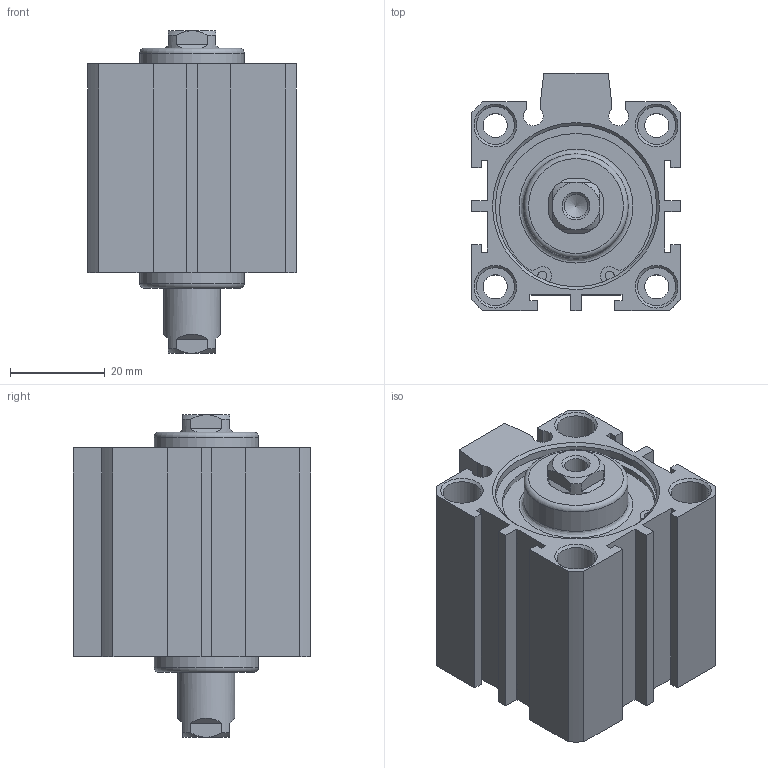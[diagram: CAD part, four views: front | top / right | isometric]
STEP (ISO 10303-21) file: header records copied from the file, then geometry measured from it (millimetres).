
FILE_DESCRIPTION((''),'2;1');
FILE_NAME('I:\3D電子目錄\氣缸\JDD\JDD-S\JDD32-S\JDD32x10-S.stp','2007-02-08T14:41:19',('662F206'),(''),'Autodesk Inventor 10','Autodesk Inventor 10','');
FILE_SCHEMA(('AUTOMOTIVE_DESIGN { 1 0 10303 214 1 1 1 1 }'));
Length unit declared in the file: millimetre
Products named in the file (3): JDD32-S; R 形環 35
Assembly tree (3 placements, depth 2):
  JDD32-S
    JDD32-S
    R 形環 35  x2
Bounding box: 44 x 50 x 68 mm (x, y, z)
Volume: 74298.4 mm3; surface area: 23338.9 mm2
Topology: 3 solids, 3 shells, 177 faces, 425 edges, 276 vertices
Faces by surface type: plane 94, cylinder 49, cone 22, bspline 10, torus 2
Full cylindrical faces by diameter (mm): 1.9 x4, 2.2 x2, 5.1 x4, 8 x8, 12 x1, 22 x2, 34 x4, 36 x2
Entity records: 4715 total; most frequent: CARTESIAN_POINT 983, DIRECTION 774, ORIENTED_EDGE 674, EDGE_CURVE 337, AXIS2_PLACEMENT_3D 292, EDGE_LOOP 248, VERTEX_POINT 247, VECTOR 190
